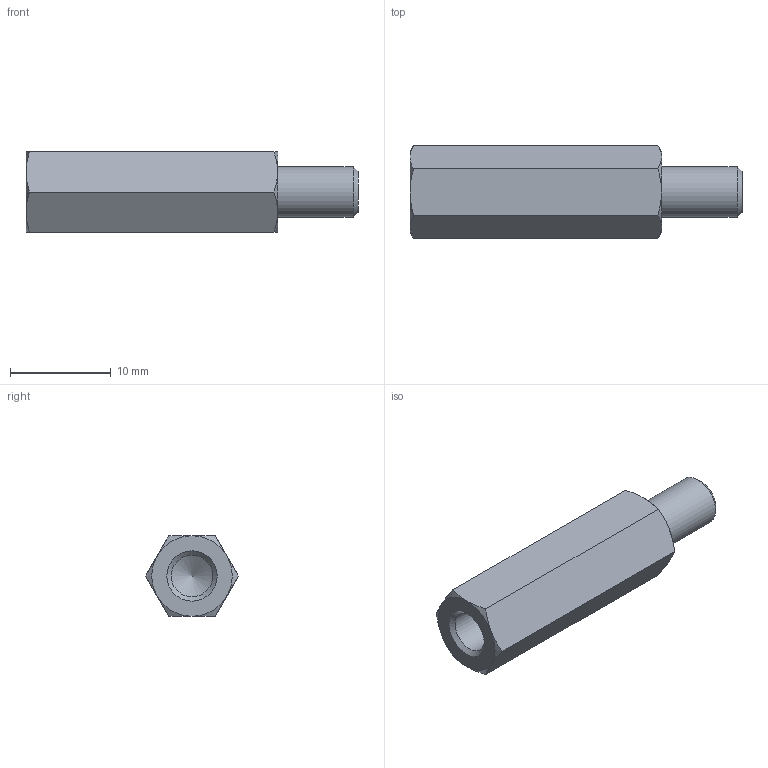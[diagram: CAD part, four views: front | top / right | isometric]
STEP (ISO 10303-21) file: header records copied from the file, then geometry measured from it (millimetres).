
FILE_DESCRIPTION( ( 'STEP AP203' ), '1' );
FILE_NAME( 'C:/Temp/Ganter_Step_05_03_2020/data/3_2/gn6220/gn6220_st/Spacer GN 6220-ST-M5-25-B.stp', '2020-03-13T05:42:43', ( 'License CC BY-ND 4.0' ), ( 'CADENAS' ), ' ', 'PARTsolutions', ' ' );
FILE_SCHEMA( ( 'CONFIG_CONTROL_DESIGN' ) );
Length unit declared in the file: millimetre
Products named in the file (1): _Spacer GN 6220-ST-M5-25-B
Bounding box: 33 x 9.24 x 8 mm (x, y, z)
Volume: 1342.4 mm3; surface area: 1102.9 mm2
Topology: 1 solids, 1 shells, 26 faces, 55 edges, 32 vertices
Faces by surface type: cone 15, plane 9, cylinder 2
Full cylindrical faces by diameter (mm): 4.134 x1, 5 x1
Entity records: 746 total; most frequent: CARTESIAN_POINT 210, DIRECTION 96, ORIENTED_EDGE 96, EDGE_CURVE 48, AXIS2_PLACEMENT_3D 45, EDGE_LOOP 32, VERTEX_POINT 31, FACE_OUTER_BOUND 28
